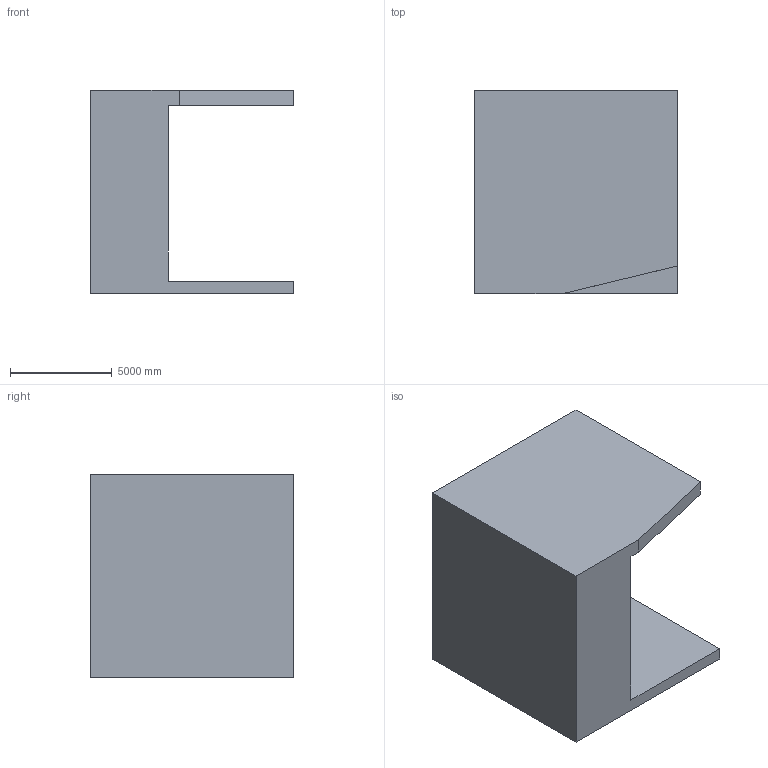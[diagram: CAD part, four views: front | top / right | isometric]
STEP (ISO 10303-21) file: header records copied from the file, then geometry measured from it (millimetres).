
FILE_DESCRIPTION (( 'STEP AP203' ), '1' );
FILE_NAME ('61.STEP', '2022-07-28T13:31:15', ( 'user' ), ( '' ), 'SwSTEP 2.0', 'SolidWorks 2021', '' );
FILE_SCHEMA (( 'CONFIG_CONTROL_DESIGN' ));
Length unit declared in the file: centimetre
Products named in the file (1): 61
Bounding box: 10000 x 10000 x 10000 mm (x, y, z)
Volume: 463385057922.9 mm3; surface area: 608308921.3 mm2
Topology: 1 solids, 1 shells, 11 faces, 27 edges, 18 vertices
Faces by surface type: plane 11
Entity records: 398 total; most frequent: CARTESIAN_POINT 57, ORIENTED_EDGE 54, DIRECTION 51, EDGE_CURVE 27, LINE 27, VECTOR 27, VERTEX_POINT 18, AXIS2_PLACEMENT_3D 12
